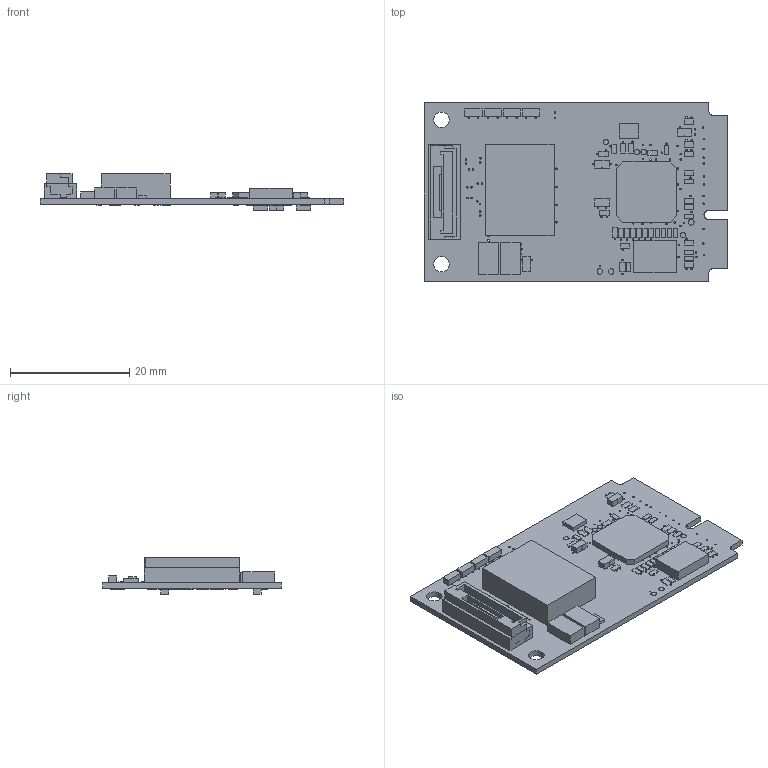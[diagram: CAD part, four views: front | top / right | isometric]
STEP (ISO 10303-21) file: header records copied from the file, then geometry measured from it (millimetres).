
FILE_DESCRIPTION((''),'2;1');
FILE_NAME('7150591_DS-MPE-GE210_REV_A_0425_ASM','2014-12-17T',('user'),(''),'PRO/ENGINEER BY PARAMETRIC TECHNOLOGY CORPORATION, 2009360','PRO/ENGINEER BY PARAMETRIC TECHNOLOGY CORPORATION, 2009360','');
FILE_SCHEMA(('CONFIG_CONTROL_DESIGN'));
Products named in the file (16): 7150591_DS-MPE-GE210_REV_A_0425; CAP_0603-HT0_9_IR; TSO15X9-165M; TP30T; RES_0603_EIA; C1210; SM0603LED_AC; XTL4P_3225_2115; SOIC_P1_27MM_H1_75MM_P8; QFN9X9-64INT; CN_SMT_1_25P_H4_35_P10_RA_ST; RES_0402; CAP_0402; BM10B-GHS-TBT; 749020023; 7150591_DS-MPE-GE210_REV_A_0425_ASM
Assembly tree (100 placements, depth 2):
  7150591_DS-MPE-GE210_REV_A_0425_ASM
    7150591_DS-MPE-GE210_REV_A_0425
    CAP_0603-HT0_9_IR  x6
    TSO15X9-165M
    TP30T  x7
    RES_0603_EIA
    C1210  x2
    SM0603LED_AC  x4
    XTL4P_3225_2115
    SOIC_P1_27MM_H1_75MM_P8
    QFN9X9-64INT
    CN_SMT_1_25P_H4_35_P10_RA_ST
    RES_0402  x39
    CAP_0402  x33
    BM10B-GHS-TBT
    749020023
Bounding box: 50.95 x 30 x 6.2 mm (x, y, z)
Volume: 2889.3 mm3; surface area: 5534 mm2
Topology: 99 solids, 99 shells, 1101 faces, 2681 edges, 1780 vertices
Faces by surface type: plane 751, cylinder 350
Entity records: 20755 total; most frequent: DIRECTION 3711, CARTESIAN_POINT 3420, ORIENTED_EDGE 3274, EDGE_CURVE 1637, AXIS2_PLACEMENT_3D 1375, VERTEX_POINT 1084, VECTOR 961, LINE 961
